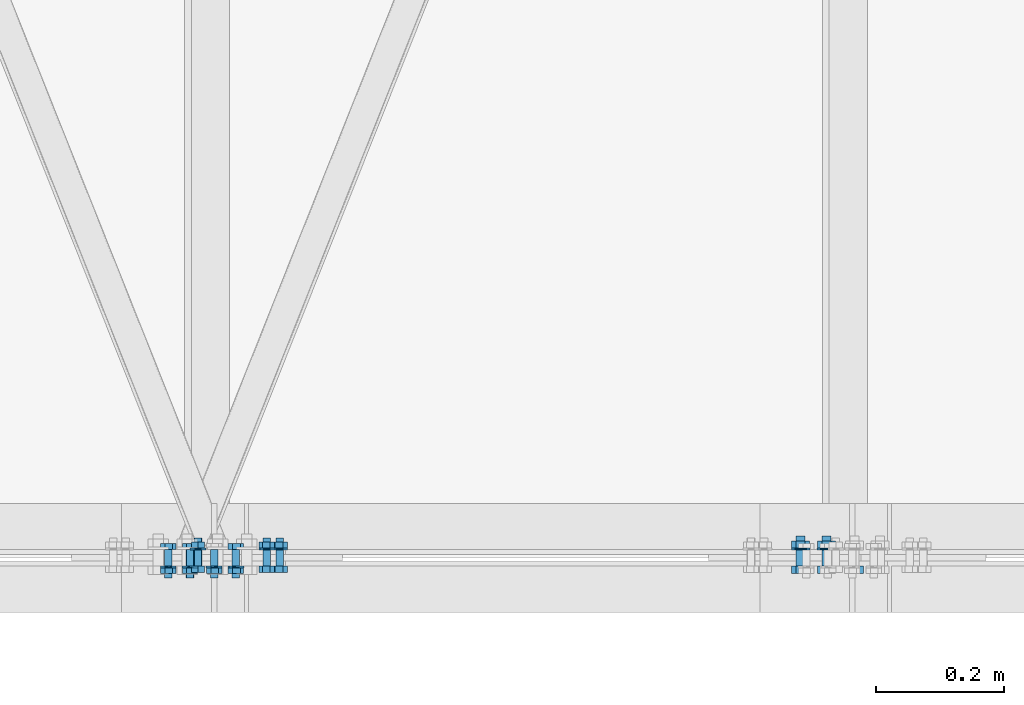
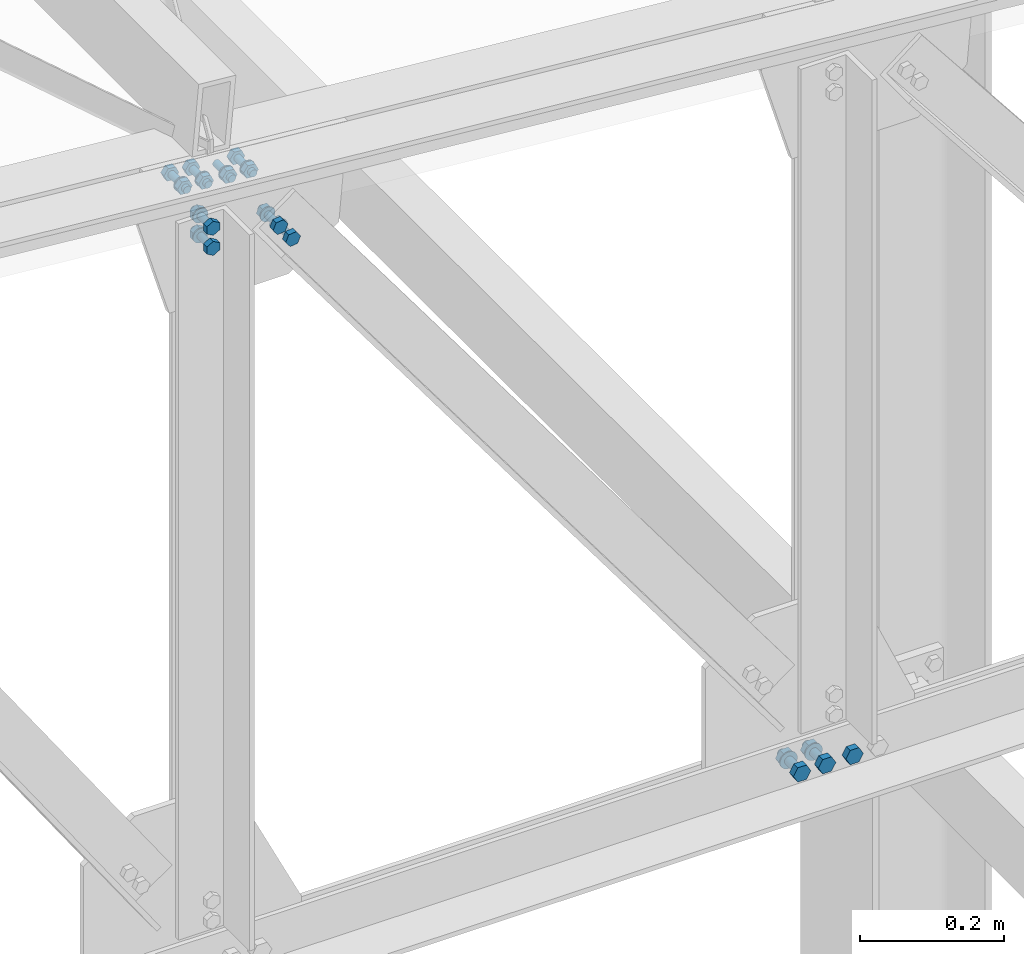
# One storey, part 90 of 251: 40 mechanical fasteners.
"""IFC4 building model written with IfcOpenShell, lengths in metres."""

from ifc_helpers import new_model, si_unit, frame, origin_with_axes, place, context, project, spatial, polyline, outline, extrude, type_object, element, save


model = new_model("IFC4")

# Units and contexts
model_context = context("Model", 3, precision=1e-05, world=origin_with_axes())
ifc_project = project(units=[si_unit("LENGTHUNIT", "METRE"), si_unit("AREAUNIT", "SQUARE_METRE"), si_unit("VOLUMEUNIT", "CUBIC_METRE"), si_unit("MASSUNIT", "GRAM", prefix="KILO"), si_unit("TIMEUNIT", "SECOND"), si_unit("PLANEANGLEUNIT", "RADIAN"), si_unit("SOLIDANGLEUNIT", "STERADIAN"), si_unit("THERMODYNAMICTEMPERATUREUNIT", "DEGREE_CELSIUS")], contexts=[model_context])

# Site, building, storey
placement_1 = place(None, origin_with_axes())
site = spatial("IfcSite", under=ifc_project, at=placement_1, Name="Italia", CompositionType="ELEMENT")
building = spatial("IfcBuilding", under=site, at=placement_1, Name="Deposito", CompositionType="ELEMENT")
storey = spatial("IfcBuildingStorey", under=building, at=placement_1, Name="Storey 0", CompositionType="ELEMENT", Elevation=0.0)

# Mechanical fasteners
mechanical_fastener_type_1 = type_object("IfcMechanicalFastenerType", Name="Reticolare 2", PredefinedType="BOLT")
placement_2 = place(placement_1, origin_with_axes())
mechanical_fastener_1_placement = place(placement_2, origin_with_axes())
element("IfcMechanicalFastener", 1, at=mechanical_fastener_1_placement, inside=storey, type_object=mechanical_fastener_type_1, Name="Reticolare 2", NominalDiameter=0.0139997, context=model_context, shape_type="SweptSolid", body=[
    extrude(outline(polyline([(0.0, 0.0), (-0.0139999, 0.0), (-0.0209999, 0.0121241), (-0.0139999, 0.0242486), (0.0, 0.0242486), (0.00699997, 0.0121241), (0.0, 0.0)])), frame((16.9964, -0.013, 4.99688), z_axis=(0.0, -1.0, 0.0), x_axis=(1.0, 0.0, 0.0)), (0.0, 0.0, 1.0), 0.0112),
])
mechanical_fastener_type_2 = type_object("IfcMechanicalFastenerType", Name="Reticolare 2", PredefinedType="BOLT")
mechanical_fastener_2_placement = place(placement_2, origin_with_axes())
element("IfcMechanicalFastener", 2, at=mechanical_fastener_2_placement, inside=storey, type_object=mechanical_fastener_type_2, Name="Reticolare 2", NominalDiameter=0.014, context=model_context, shape_type="SweptSolid", body=[
    extrude(outline(polyline([(0.0, 0.0), (-0.000238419, -0.0018115), (-0.000938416, -0.00349998), (-0.0020504, -0.00494957), (-0.00349998, -0.00606203), (-0.00518799, -0.00676155), (-0.00699997, -0.00699997), (-0.00881195, -0.00676155), (-0.0105, -0.00606203), (-0.0119495, -0.00494957), (-0.0130615, -0.00349998), (-0.0137615, -0.0018115), (-0.0139999, 0.0), (-0.0137615, 0.0018115), (-0.0130615, 0.00349998), (-0.0119495, 0.00494957), (-0.0105, 0.00606203), (-0.00881195, 0.00676155), (-0.00699997, 0.00699997), (-0.00518799, 0.00676155), (-0.00349998, 0.00606203), (-0.0020504, 0.00494957), (-0.000938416, 0.00349998), (-0.000238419, 0.0018115), (0.0, 0.0)])), frame((16.9964, 0.034, 5.009), z_axis=(0.0, -1.0, 0.0), x_axis=(1.0, 0.0, 0.0)), (0.0, 0.0, 1.0), 0.047),
])
mechanical_fastener_type_3 = type_object("IfcMechanicalFastenerType", Name="Reticolare 2", PredefinedType="BOLT")
mechanical_fastener_3_placement = place(placement_2, origin_with_axes())
element("IfcMechanicalFastener", 3, at=mechanical_fastener_3_placement, inside=storey, type_object=mechanical_fastener_type_3, Name="Reticolare 2", NominalDiameter=0.0139997, context=model_context, shape_type="SweptSolid", body=[
    extrude(outline(polyline([(0.0, 0.0), (-0.0139999, 0.0), (-0.0209999, 0.0121241), (-0.0139999, 0.0242486), (0.0, 0.0242486), (0.00699997, 0.0121241), (0.0, 0.0)])), frame((16.9964, 0.0262, 4.99688), z_axis=(0.0, -1.0, 0.0), x_axis=(1.0, 0.0, 0.0)), (0.0, 0.0, 1.0), 0.0112),
])
mechanical_fastener_type_4 = type_object("IfcMechanicalFastenerType", Name="Reticolare 2", PredefinedType="BOLT")
mechanical_fastener_4_placement = place(placement_2, origin_with_axes())
element("IfcMechanicalFastener", 4, at=mechanical_fastener_4_placement, inside=storey, type_object=mechanical_fastener_type_4, Name="Reticolare 2", NominalDiameter=0.028, context=model_context, shape_type="SweptSolid", body=[
    extrude(outline(polyline([(0.0, 0.0), (-0.000476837, -0.00362349), (-0.00187492, -0.00699997), (-0.0041008, -0.00989962), (-0.00699997, -0.0121245), (-0.010376, -0.0135231), (-0.0139999, -0.0139999), (-0.0176239, -0.0135231), (-0.0209999, -0.0121245), (-0.0238991, -0.00989962), (-0.026125, -0.00699997), (-0.027523, -0.00362349), (-0.0279999, 0.0), (-0.027523, 0.00362349), (-0.026125, 0.00699997), (-0.0238991, 0.00989962), (-0.0209999, 0.0121245), (-0.0176239, 0.0135231), (-0.0139999, 0.0139999), (-0.010376, 0.0135231), (-0.00699997, 0.0121245), (-0.0041008, 0.00989962), (-0.00187492, 0.00699997), (-0.000476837, 0.00362349), (0.0, 0.0)])), frame((17.0034, 0.015, 5.009), z_axis=(0.0, -1.0, 0.0), x_axis=(1.0, 0.0, 0.0)), (0.0, 0.0, 1.0), 0.002),
])
mechanical_fastener_type_5 = type_object("IfcMechanicalFastenerType", Name="Reticolare 2", PredefinedType="BOLT")
mechanical_fastener_5_placement = place(placement_2, origin_with_axes())
element("IfcMechanicalFastener", 5, at=mechanical_fastener_5_placement, inside=storey, type_object=mechanical_fastener_type_5, Name="Reticolare 2", NominalDiameter=0.0139997, context=model_context, shape_type="SweptSolid", body=[
    extrude(outline(polyline([(0.0, 0.0), (-0.0139999, 0.0), (-0.0209999, 0.0121241), (-0.0139999, 0.0242486), (0.0, 0.0242486), (0.00699997, 0.0121241), (0.0, 0.0)])), frame((16.9564, -0.013, 4.99688), z_axis=(0.0, -1.0, 0.0), x_axis=(1.0, 0.0, 0.0)), (0.0, 0.0, 1.0), 0.0112),
])
mechanical_fastener_type_6 = type_object("IfcMechanicalFastenerType", Name="Reticolare 2", PredefinedType="BOLT")
mechanical_fastener_6_placement = place(placement_2, origin_with_axes())
element("IfcMechanicalFastener", 6, at=mechanical_fastener_6_placement, inside=storey, type_object=mechanical_fastener_type_6, Name="Reticolare 2", NominalDiameter=0.014, context=model_context, shape_type="SweptSolid", body=[
    extrude(outline(polyline([(0.0, 0.0), (-0.000238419, -0.0018115), (-0.000938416, -0.00349998), (-0.0020504, -0.00494957), (-0.00349998, -0.00606203), (-0.00518799, -0.00676155), (-0.00699997, -0.00699997), (-0.00881195, -0.00676155), (-0.0105, -0.00606203), (-0.0119495, -0.00494957), (-0.0130615, -0.00349998), (-0.0137615, -0.0018115), (-0.0139999, 0.0), (-0.0137615, 0.0018115), (-0.0130615, 0.00349998), (-0.0119495, 0.00494957), (-0.0105, 0.00606203), (-0.00881195, 0.00676155), (-0.00699997, 0.00699997), (-0.00518799, 0.00676155), (-0.00349998, 0.00606203), (-0.0020504, 0.00494957), (-0.000938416, 0.00349998), (-0.000238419, 0.0018115), (0.0, 0.0)])), frame((16.9564, 0.034, 5.009), z_axis=(0.0, -1.0, 0.0), x_axis=(1.0, 0.0, 0.0)), (0.0, 0.0, 1.0), 0.047),
])
mechanical_fastener_type_7 = type_object("IfcMechanicalFastenerType", Name="Reticolare 2", PredefinedType="BOLT")
mechanical_fastener_7_placement = place(placement_2, origin_with_axes())
element("IfcMechanicalFastener", 7, at=mechanical_fastener_7_placement, inside=storey, type_object=mechanical_fastener_type_7, Name="Reticolare 2", NominalDiameter=0.0139997, context=model_context, shape_type="SweptSolid", body=[
    extrude(outline(polyline([(0.0, 0.0), (-0.0139999, 0.0), (-0.0209999, 0.0121241), (-0.0139999, 0.0242486), (0.0, 0.0242486), (0.00699997, 0.0121241), (0.0, 0.0)])), frame((16.9564, 0.0262, 4.99688), z_axis=(0.0, -1.0, 0.0), x_axis=(1.0, 0.0, 0.0)), (0.0, 0.0, 1.0), 0.0112),
])
mechanical_fastener_type_8 = type_object("IfcMechanicalFastenerType", Name="Reticolare 2", PredefinedType="BOLT")
mechanical_fastener_8_placement = place(placement_2, origin_with_axes())
element("IfcMechanicalFastener", 8, at=mechanical_fastener_8_placement, inside=storey, type_object=mechanical_fastener_type_8, Name="Reticolare 2", NominalDiameter=0.028, context=model_context, shape_type="SweptSolid", body=[
    extrude(outline(polyline([(0.0, 0.0), (-0.000476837, -0.00362349), (-0.00187492, -0.00699997), (-0.0041008, -0.00989962), (-0.00699997, -0.0121245), (-0.010376, -0.0135231), (-0.0139999, -0.0139999), (-0.0176239, -0.0135231), (-0.0209999, -0.0121245), (-0.0238991, -0.00989962), (-0.026125, -0.00699997), (-0.027523, -0.00362349), (-0.0279999, 0.0), (-0.027523, 0.00362349), (-0.026125, 0.00699997), (-0.0238991, 0.00989962), (-0.0209999, 0.0121245), (-0.0176239, 0.0135231), (-0.0139999, 0.0139999), (-0.010376, 0.0135231), (-0.00699997, 0.0121245), (-0.0041008, 0.00989962), (-0.00187492, 0.00699997), (-0.000476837, 0.00362349), (0.0, 0.0)])), frame((16.9634, 0.015, 5.009), z_axis=(0.0, -1.0, 0.0), x_axis=(1.0, 0.0, 0.0)), (0.0, 0.0, 1.0), 0.002),
])
mechanical_fastener_type_9 = type_object("IfcMechanicalFastenerType", Name="Reticolare 2", PredefinedType="BOLT")
mechanical_fastener_9_placement = place(placement_2, origin_with_axes())
element("IfcMechanicalFastener", 9, at=mechanical_fastener_9_placement, inside=storey, type_object=mechanical_fastener_type_9, Name="Reticolare 2", NominalDiameter=0.0139997, context=model_context, shape_type="SweptSolid", body=[
    extrude(outline(polyline([(0.0, 0.0), (-0.0139999, 0.0), (-0.0209999, 0.0121241), (-0.0139999, 0.0242486), (0.0, 0.0242486), (0.00699997, 0.0121241), (0.0, 0.0)])), frame((17.0404, -0.013, 4.99688), z_axis=(0.0, -1.0, 0.0), x_axis=(1.0, 0.0, 0.0)), (0.0, 0.0, 1.0), 0.0112),
])
mechanical_fastener_type_10 = type_object("IfcMechanicalFastenerType", Name="Reticolare 2", PredefinedType="BOLT")
mechanical_fastener_10_placement = place(placement_2, origin_with_axes())
element("IfcMechanicalFastener", 10, at=mechanical_fastener_10_placement, inside=storey, type_object=mechanical_fastener_type_10, Name="Reticolare 2", NominalDiameter=0.012, context=model_context, shape_type="SweptSolid", body=[
    extrude(outline(polyline([(0.0, 0.0), (-0.000204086, -0.00155306), (-0.000804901, -0.00299978), (-0.00175858, -0.00424242), (-0.00300026, -0.00519609), (-0.00444794, -0.00579548), (-0.00600052, -0.00600004), (-0.0075531, -0.00579548), (-0.00900078, -0.00519609), (-0.0102425, -0.00424242), (-0.0111961, -0.00299978), (-0.011797, -0.00155306), (-0.012001, 0.0), (-0.011797, 0.00155306), (-0.0111961, 0.00299978), (-0.0102425, 0.00424242), (-0.00900078, 0.00519609), (-0.0075531, 0.00579548), (-0.00600052, 0.00600004), (-0.00444794, 0.00579548), (-0.00300026, 0.00519609), (-0.00175858, 0.00424242), (-0.000804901, 0.00299978), (-0.000204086, 0.00155306), (0.0, 0.0)])), frame((16.0275, -0.031, 6.33999), z_axis=(0.0, 1.0, 0.0), x_axis=(-1.0, 0.0, 0.0)), (0.0, 0.0, 1.0), 0.044),
])
mechanical_fastener_type_11 = type_object("IfcMechanicalFastenerType", Name="Reticolare 2", PredefinedType="BOLT")
mechanical_fastener_11_placement = place(placement_2, origin_with_axes())
element("IfcMechanicalFastener", 11, at=mechanical_fastener_11_placement, inside=storey, type_object=mechanical_fastener_type_11, Name="Reticolare 2", NominalDiameter=0.011999, context=model_context, shape_type="SweptSolid", body=[
    extrude(outline(polyline([(0.0, 0.0), (0.0119534, 0.0010457), (0.018837, -0.00878429), (0.0137653, -0.01966), (0.00181007, -0.0207057), (-0.00507164, -0.0108757), (0.0, 0.0)])), frame((16.0404, -0.0246, 6.34982), z_axis=(0.0, 1.0, 0.0), x_axis=(-1.0, 0.0, 0.0)), (0.0, 0.0, 1.0), 0.0096),
])
mechanical_fastener_type_12 = type_object("IfcMechanicalFastenerType", Name="Reticolare 2", PredefinedType="BOLT")
mechanical_fastener_12_placement = place(placement_2, origin_with_axes())
element("IfcMechanicalFastener", 12, at=mechanical_fastener_12_placement, inside=storey, type_object=mechanical_fastener_type_12, Name="Reticolare 2", NominalDiameter=0.024, context=model_context, shape_type="SweptSolid", body=[
    extrude(outline(polyline([(0.0, 0.0), (-0.000408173, -0.00310564), (-0.00160599, -0.00600004), (-0.00351334, -0.00848532), (-0.00599861, -0.0103922), (-0.00889397, -0.011591), (-0.0119991, -0.0120001), (-0.0151043, -0.011591), (-0.0179996, -0.0103922), (-0.0204849, -0.00848532), (-0.0223923, -0.00600004), (-0.0235901, -0.00310564), (-0.0239983, 0.0), (-0.0235901, 0.00310564), (-0.0223923, 0.00600004), (-0.0204849, 0.00848532), (-0.0179996, 0.0103922), (-0.0151043, 0.011591), (-0.0119991, 0.0120001), (-0.00889397, 0.011591), (-0.00599861, 0.0103922), (-0.00351334, 0.00848532), (-0.00160599, 0.00600004), (-0.000408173, 0.00310564), (0.0, 0.0)])), frame((16.0215, -0.015, 6.33999), z_axis=(0.0, 1.0, 0.0), x_axis=(-1.0, 0.0, 0.0)), (0.0, 0.0, 1.0), 0.002),
])
mechanical_fastener_type_13 = type_object("IfcMechanicalFastenerType", Name="Reticolare 2", PredefinedType="BOLT")
mechanical_fastener_13_placement = place(placement_2, origin_with_axes())
element("IfcMechanicalFastener", 13, at=mechanical_fastener_13_placement, inside=storey, type_object=mechanical_fastener_type_13, Name="Reticolare 2", NominalDiameter=0.011999, context=model_context, shape_type="SweptSolid", body=[
    extrude(outline(polyline([(0.0, 0.0), (0.0119534, 0.00104618), (0.018837, -0.00878382), (0.0137653, -0.0196595), (0.00181007, -0.0207052), (-0.00507164, -0.0108757), (0.0, 0.0)])), frame((16.0743, 0.013, 6.34686), z_axis=(0.0, 1.0, 0.0), x_axis=(-1.0, 0.0, 0.0)), (0.0, 0.0, 1.0), 0.0096),
])
mechanical_fastener_type_14 = type_object("IfcMechanicalFastenerType", Name="Reticolare 2", PredefinedType="BOLT")
mechanical_fastener_14_placement = place(placement_2, origin_with_axes())
element("IfcMechanicalFastener", 14, at=mechanical_fastener_14_placement, inside=storey, type_object=mechanical_fastener_type_14, Name="Reticolare 2", NominalDiameter=0.012, context=model_context, shape_type="SweptSolid", body=[
    extrude(outline(polyline([(0.0, 0.0), (-0.000204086, -0.00155306), (-0.000804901, -0.00299978), (-0.00175858, -0.00424242), (-0.00300026, -0.00519609), (-0.00444794, -0.00579548), (-0.00600052, -0.00600004), (-0.0075531, -0.00579548), (-0.00900078, -0.00519609), (-0.0102425, -0.00424242), (-0.0111961, -0.00299978), (-0.011797, -0.00155306), (-0.012001, 0.0), (-0.011797, 0.00155306), (-0.0111961, 0.00299978), (-0.0102425, 0.00424242), (-0.00900078, 0.00519609), (-0.0075531, 0.00579548), (-0.00600052, 0.00600004), (-0.00444794, 0.00579548), (-0.00300026, 0.00519609), (-0.00175858, 0.00424242), (-0.000804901, 0.00299978), (-0.000204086, 0.00155306), (0.0, 0.0)])), frame((16.0614, -0.031, 6.33703), z_axis=(0.0, 1.0, 0.0), x_axis=(-1.0, 0.0, 0.0)), (0.0, 0.0, 1.0), 0.044),
])
mechanical_fastener_type_15 = type_object("IfcMechanicalFastenerType", Name="Reticolare 2", PredefinedType="BOLT")
mechanical_fastener_15_placement = place(placement_2, origin_with_axes())
element("IfcMechanicalFastener", 15, at=mechanical_fastener_15_placement, inside=storey, type_object=mechanical_fastener_type_15, Name="Reticolare 2", NominalDiameter=0.011999, context=model_context, shape_type="SweptSolid", body=[
    extrude(outline(polyline([(0.0, 0.0), (0.0119534, 0.00104618), (0.018837, -0.00878382), (0.0137653, -0.0196595), (0.00181007, -0.0207052), (-0.00507164, -0.0108757), (0.0, 0.0)])), frame((16.0743, -0.0246, 6.34686), z_axis=(0.0, 1.0, 0.0), x_axis=(-1.0, 0.0, 0.0)), (0.0, 0.0, 1.0), 0.0096),
])
mechanical_fastener_type_16 = type_object("IfcMechanicalFastenerType", Name="Reticolare 2", PredefinedType="BOLT")
mechanical_fastener_16_placement = place(placement_2, origin_with_axes())
element("IfcMechanicalFastener", 16, at=mechanical_fastener_16_placement, inside=storey, type_object=mechanical_fastener_type_16, Name="Reticolare 2", NominalDiameter=0.024, context=model_context, shape_type="SweptSolid", body=[
    extrude(outline(polyline([(0.0, 0.0), (-0.000408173, -0.00310564), (-0.00160599, -0.00600004), (-0.00351334, -0.00848532), (-0.00599861, -0.0103922), (-0.00889397, -0.011591), (-0.0119991, -0.0120001), (-0.0151043, -0.011591), (-0.0179996, -0.0103922), (-0.0204849, -0.00848532), (-0.0223923, -0.00600004), (-0.0235901, -0.00310564), (-0.0239983, 0.0), (-0.0235901, 0.00310564), (-0.0223923, 0.00600004), (-0.0204849, 0.00848532), (-0.0179996, 0.0103922), (-0.0151043, 0.011591), (-0.0119991, 0.0120001), (-0.00889397, 0.011591), (-0.00599861, 0.0103922), (-0.00351334, 0.00848532), (-0.00160599, 0.00600004), (-0.000408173, 0.00310564), (0.0, 0.0)])), frame((16.0554, -0.015, 6.33703), z_axis=(0.0, 1.0, 0.0), x_axis=(-1.0, 0.0, 0.0)), (0.0, 0.0, 1.0), 0.002),
])
mechanical_fastener_type_17 = type_object("IfcMechanicalFastenerType", Name="Reticolare 2", PredefinedType="BOLT")
mechanical_fastener_17_placement = place(placement_2, origin_with_axes())
element("IfcMechanicalFastener", 17, at=mechanical_fastener_17_placement, inside=storey, type_object=mechanical_fastener_type_17, Name="Reticolare 2", NominalDiameter=0.011999, context=model_context, shape_type="SweptSolid", body=[
    extrude(outline(polyline([(0.0, 0.0), (0.0119543, 0.00104618), (0.018837, -0.00878382), (0.0137653, -0.0196595), (0.00181198, -0.0207052), (-0.00507164, -0.0108757), (0.0, 0.0)])), frame((16.0026, 0.013, 6.35314), z_axis=(0.0, 1.0, 0.0), x_axis=(-1.0, 0.0, 0.0)), (0.0, 0.0, 1.0), 0.0096),
])
mechanical_fastener_type_18 = type_object("IfcMechanicalFastenerType", Name="Reticolare 2", PredefinedType="BOLT")
mechanical_fastener_18_placement = place(placement_2, origin_with_axes())
element("IfcMechanicalFastener", 18, at=mechanical_fastener_18_placement, inside=storey, type_object=mechanical_fastener_type_18, Name="Reticolare 2", NominalDiameter=0.012, context=model_context, shape_type="SweptSolid", body=[
    extrude(outline(polyline([(0.0, 0.0), (-0.000204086, -0.00155306), (-0.000802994, -0.00299978), (-0.00175667, -0.00424242), (-0.00299931, -0.00519609), (-0.00444698, -0.00579548), (-0.00599957, -0.00600004), (-0.00755215, -0.00579548), (-0.00899982, -0.00519609), (-0.0102425, -0.00424242), (-0.0111952, -0.00299978), (-0.011796, -0.00155306), (-0.0120001, 0.0), (-0.011796, 0.00155306), (-0.0111952, 0.00299978), (-0.0102425, 0.00424242), (-0.00899982, 0.00519609), (-0.00755215, 0.00579548), (-0.00599957, 0.00600004), (-0.00444698, 0.00579548), (-0.00299931, 0.00519609), (-0.00175667, 0.00424242), (-0.000802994, 0.00299978), (-0.000204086, 0.00155306), (0.0, 0.0)])), frame((15.9897, -0.031, 6.34331), z_axis=(0.0, 1.0, 0.0), x_axis=(-1.0, 0.0, 0.0)), (0.0, 0.0, 1.0), 0.044),
])
mechanical_fastener_type_19 = type_object("IfcMechanicalFastenerType", Name="Reticolare 2", PredefinedType="BOLT")
mechanical_fastener_19_placement = place(placement_2, origin_with_axes())
element("IfcMechanicalFastener", 19, at=mechanical_fastener_19_placement, inside=storey, type_object=mechanical_fastener_type_19, Name="Reticolare 2", NominalDiameter=0.011999, context=model_context, shape_type="SweptSolid", body=[
    extrude(outline(polyline([(0.0, 0.0), (0.0119543, 0.00104618), (0.018837, -0.00878382), (0.0137653, -0.0196595), (0.00181198, -0.0207052), (-0.00507164, -0.0108757), (0.0, 0.0)])), frame((16.0026, -0.0246, 6.35314), z_axis=(0.0, 1.0, 0.0), x_axis=(-1.0, 0.0, 0.0)), (0.0, 0.0, 1.0), 0.0096),
])
mechanical_fastener_type_20 = type_object("IfcMechanicalFastenerType", Name="Reticolare 2", PredefinedType="BOLT")
mechanical_fastener_20_placement = place(placement_2, origin_with_axes())
element("IfcMechanicalFastener", 20, at=mechanical_fastener_20_placement, inside=storey, type_object=mechanical_fastener_type_20, Name="Reticolare 2", NominalDiameter=0.024, context=model_context, shape_type="SweptSolid", body=[
    extrude(outline(polyline([(0.0, 0.0), (-0.000409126, -0.00310564), (-0.00160789, -0.00600004), (-0.00351524, -0.00848532), (-0.00600052, -0.0103922), (-0.00889397, -0.011591), (-0.0120001, -0.0120001), (-0.0151062, -0.011591), (-0.0180006, -0.0103922), (-0.0204859, -0.00848532), (-0.0223932, -0.00600004), (-0.023591, -0.00310564), (-0.0239992, 0.0), (-0.023591, 0.00310564), (-0.0223932, 0.00600004), (-0.0204859, 0.00848532), (-0.0180006, 0.0103922), (-0.0151062, 0.011591), (-0.0120001, 0.0120001), (-0.00889397, 0.011591), (-0.00600052, 0.0103922), (-0.00351524, 0.00848532), (-0.00160789, 0.00600004), (-0.000409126, 0.00310564), (0.0, 0.0)])), frame((15.9837, -0.015, 6.34331), z_axis=(0.0, 1.0, 0.0), x_axis=(-1.0, 0.0, 0.0)), (0.0, 0.0, 1.0), 0.002),
])
mechanical_fastener_type_21 = type_object("IfcMechanicalFastenerType", Name="Reticolare 2", PredefinedType="BOLT")
mechanical_fastener_21_placement = place(placement_2, origin_with_axes())
element("IfcMechanicalFastener", 21, at=mechanical_fastener_21_placement, inside=storey, type_object=mechanical_fastener_type_21, Name="Reticolare 2", NominalDiameter=0.012, context=model_context, shape_type="SweptSolid", body=[
    extrude(outline(polyline([(0.0, 0.0), (0.0119543, 0.0010457), (0.018837, -0.00878429), (0.0137653, -0.01966), (0.00181103, -0.0207057), (-0.00507164, -0.0108757), (0.0, 0.0)])), frame((15.9687, 0.013, 6.3561), z_axis=(0.0, 1.0, 0.0), x_axis=(-1.0, 0.0, 0.0)), (0.0, 0.0, 1.0), 0.0096),
])
mechanical_fastener_type_22 = type_object("IfcMechanicalFastenerType", Name="Reticolare 2", PredefinedType="BOLT")
mechanical_fastener_22_placement = place(placement_2, origin_with_axes())
element("IfcMechanicalFastener", 22, at=mechanical_fastener_22_placement, inside=storey, type_object=mechanical_fastener_type_22, Name="Reticolare 2", NominalDiameter=0.012, context=model_context, shape_type="SweptSolid", body=[
    extrude(outline(polyline([(0.0, 0.0), (-0.000204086, -0.00155306), (-0.000802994, -0.00299978), (-0.00175667, -0.00424242), (-0.00299931, -0.00519609), (-0.00444698, -0.00579548), (-0.00599957, -0.00600004), (-0.00755215, -0.00579548), (-0.00899982, -0.00519609), (-0.0102425, -0.00424242), (-0.0111961, -0.00299978), (-0.011795, -0.00155306), (-0.0119991, 0.0), (-0.011795, 0.00155306), (-0.0111961, 0.00299978), (-0.0102425, 0.00424242), (-0.00899982, 0.00519609), (-0.00755215, 0.00579548), (-0.00599957, 0.00600004), (-0.00444698, 0.00579548), (-0.00299931, 0.00519609), (-0.00175667, 0.00424242), (-0.000802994, 0.00299978), (-0.000204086, 0.00155306), (0.0, 0.0)])), frame((15.9558, -0.031, 6.34627), z_axis=(0.0, 1.0, 0.0), x_axis=(-1.0, 0.0, 0.0)), (0.0, 0.0, 1.0), 0.044),
])
mechanical_fastener_type_23 = type_object("IfcMechanicalFastenerType", Name="Reticolare 2", PredefinedType="BOLT")
mechanical_fastener_23_placement = place(placement_2, origin_with_axes())
element("IfcMechanicalFastener", 23, at=mechanical_fastener_23_placement, inside=storey, type_object=mechanical_fastener_type_23, Name="Reticolare 2", NominalDiameter=0.012, context=model_context, shape_type="SweptSolid", body=[
    extrude(outline(polyline([(0.0, 0.0), (0.0119543, 0.0010457), (0.018837, -0.00878429), (0.0137653, -0.01966), (0.00181103, -0.0207057), (-0.00507164, -0.0108757), (0.0, 0.0)])), frame((15.9687, -0.0246, 6.3561), z_axis=(0.0, 1.0, 0.0), x_axis=(-1.0, 0.0, 0.0)), (0.0, 0.0, 1.0), 0.0096),
])
mechanical_fastener_type_24 = type_object("IfcMechanicalFastenerType", Name="Reticolare 2", PredefinedType="BOLT")
mechanical_fastener_24_placement = place(placement_2, origin_with_axes())
element("IfcMechanicalFastener", 24, at=mechanical_fastener_24_placement, inside=storey, type_object=mechanical_fastener_type_24, Name="Reticolare 2", NominalDiameter=0.024, context=model_context, shape_type="SweptSolid", body=[
    extrude(outline(polyline([(0.0, 0.0), (-0.000409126, -0.00310564), (-0.00160789, -0.00600004), (-0.00351524, -0.00848532), (-0.00600052, -0.0103922), (-0.00889397, -0.011591), (-0.0120001, -0.0120001), (-0.0151062, -0.011591), (-0.0179996, -0.0103922), (-0.0204849, -0.00848532), (-0.0223923, -0.00600004), (-0.023591, -0.00310564), (-0.0240002, 0.0), (-0.023591, 0.00310564), (-0.0223923, 0.00600004), (-0.0204849, 0.00848532), (-0.0179996, 0.0103922), (-0.0151062, 0.011591), (-0.0120001, 0.0120001), (-0.00889397, 0.011591), (-0.00600052, 0.0103922), (-0.00351524, 0.00848532), (-0.00160789, 0.00600004), (-0.000409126, 0.00310564), (0.0, 0.0)])), frame((15.9498, -0.015, 6.34627), z_axis=(0.0, 1.0, 0.0), x_axis=(-1.0, 0.0, 0.0)), (0.0, 0.0, 1.0), 0.002),
])
mechanical_fastener_type_25 = type_object("IfcMechanicalFastenerType", Name="Reticolare 2", PredefinedType="BOLT")
mechanical_fastener_25_placement = place(placement_2, origin_with_axes())
element("IfcMechanicalFastener", 25, at=mechanical_fastener_25_placement, inside=storey, type_object=mechanical_fastener_type_25, Name="Reticolare 2", NominalDiameter=0.0119999, context=model_context, shape_type="SweptSolid", body=[
    extrude(outline(polyline([(0.0, 0.0), (0.0, -0.0120001), (-0.0103931, -0.0180001), (-0.0207853, -0.0120001), (-0.0207853, 0.0), (-0.0103931, 0.00600004), (0.0, 0.0)])), frame((16.0186, -0.013, 6.26586), z_axis=(0.0, -1.0, 0.0), x_axis=(1.0, 0.0, 0.0)), (0.0, 0.0, 1.0), 0.0096),
])
mechanical_fastener_type_26 = type_object("IfcMechanicalFastenerType", Name="Reticolare 2", PredefinedType="BOLT")
mechanical_fastener_26_placement = place(placement_2, origin_with_axes())
element("IfcMechanicalFastener", 26, at=mechanical_fastener_26_placement, inside=storey, type_object=mechanical_fastener_type_26, Name="Reticolare 2", NominalDiameter=0.012, context=model_context, shape_type="SweptSolid", body=[
    extrude(outline(polyline([(0.0, 0.0), (-0.000204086, -0.00155306), (-0.000804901, -0.00299978), (-0.00175858, -0.00424242), (-0.00300026, -0.00519609), (-0.00444794, -0.00579548), (-0.00600052, -0.00600004), (-0.0075531, -0.00579548), (-0.00900078, -0.00519609), (-0.0102425, -0.00424242), (-0.0111961, -0.00299978), (-0.011797, -0.00155306), (-0.012001, 0.0), (-0.011797, 0.00155306), (-0.0111961, 0.00299978), (-0.0102425, 0.00424242), (-0.00900078, 0.00519609), (-0.0075531, 0.00579548), (-0.00600052, 0.00600004), (-0.00444794, 0.00579548), (-0.00300026, 0.00519609), (-0.00175858, 0.00424242), (-0.000804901, 0.00299978), (-0.000204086, 0.00155306), (0.0, 0.0)])), frame((16.0142, 0.031, 6.25986), z_axis=(0.0, -1.0, 0.0), x_axis=(1.0, 0.0, 0.0)), (0.0, 0.0, 1.0), 0.044),
])
mechanical_fastener_type_27 = type_object("IfcMechanicalFastenerType", Name="Reticolare 2", PredefinedType="BOLT")
mechanical_fastener_27_placement = place(placement_2, origin_with_axes())
element("IfcMechanicalFastener", 27, at=mechanical_fastener_27_placement, inside=storey, type_object=mechanical_fastener_type_27, Name="Reticolare 2", NominalDiameter=0.0119999, context=model_context, shape_type="SweptSolid", body=[
    extrude(outline(polyline([(0.0, 0.0), (0.0, -0.0120001), (-0.0103931, -0.0180001), (-0.0207853, -0.0120001), (-0.0207853, 0.0), (-0.0103931, 0.00600004), (0.0, 0.0)])), frame((16.0186, 0.0246, 6.26586), z_axis=(0.0, -1.0, 0.0), x_axis=(1.0, 0.0, 0.0)), (0.0, 0.0, 1.0), 0.0096),
])
mechanical_fastener_type_28 = type_object("IfcMechanicalFastenerType", Name="Reticolare 2", PredefinedType="BOLT")
mechanical_fastener_28_placement = place(placement_2, origin_with_axes())
element("IfcMechanicalFastener", 28, at=mechanical_fastener_28_placement, inside=storey, type_object=mechanical_fastener_type_28, Name="Reticolare 2", NominalDiameter=0.024, context=model_context, shape_type="SweptSolid", body=[
    extrude(outline(polyline([(0.0, 0.0), (-0.000408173, -0.00310564), (-0.00160599, -0.00600004), (-0.00351334, -0.00848532), (-0.00599861, -0.0103922), (-0.00889397, -0.011591), (-0.0119991, -0.0120001), (-0.0151043, -0.011591), (-0.0179996, -0.0103922), (-0.020484, -0.00848532), (-0.0223913, -0.00600004), (-0.0235901, -0.00310564), (-0.0239992, 0.0), (-0.0235901, 0.00310564), (-0.0223913, 0.00600004), (-0.020484, 0.00848532), (-0.0179996, 0.0103922), (-0.0151043, 0.011591), (-0.0119991, 0.0120001), (-0.00889397, 0.011591), (-0.00599861, 0.0103922), (-0.00351334, 0.00848532), (-0.00160599, 0.00600004), (-0.000408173, 0.00310564), (0.0, 0.0)])), frame((16.0202, 0.015, 6.25986), z_axis=(0.0, -1.0, 0.0), x_axis=(1.0, 0.0, 0.0)), (0.0, 0.0, 1.0), 0.002),
])
mechanical_fastener_type_29 = type_object("IfcMechanicalFastenerType", Name="Reticolare 2", PredefinedType="BOLT")
mechanical_fastener_29_placement = place(placement_2, origin_with_axes())
element("IfcMechanicalFastener", 29, at=mechanical_fastener_29_placement, inside=storey, type_object=mechanical_fastener_type_29, Name="Reticolare 2", NominalDiameter=0.0119999, context=model_context, shape_type="SweptSolid", body=[
    extrude(outline(polyline([(0.0, 0.0), (0.0, -0.0120001), (-0.0103931, -0.0180001), (-0.0207853, -0.0120001), (-0.0207853, 0.0), (-0.0103931, 0.00600004), (0.0, 0.0)])), frame((16.0186, -0.013, 6.23186), z_axis=(0.0, -1.0, 0.0), x_axis=(1.0, 0.0, 0.0)), (0.0, 0.0, 1.0), 0.0096),
])
mechanical_fastener_type_30 = type_object("IfcMechanicalFastenerType", Name="Reticolare 2", PredefinedType="BOLT")
mechanical_fastener_30_placement = place(placement_2, origin_with_axes())
element("IfcMechanicalFastener", 30, at=mechanical_fastener_30_placement, inside=storey, type_object=mechanical_fastener_type_30, Name="Reticolare 2", NominalDiameter=0.012, context=model_context, shape_type="SweptSolid", body=[
    extrude(outline(polyline([(0.0, 0.0), (-0.000204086, -0.00155306), (-0.000804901, -0.00299978), (-0.00175858, -0.00424242), (-0.00300026, -0.00519609), (-0.00444794, -0.00579548), (-0.00600052, -0.00600004), (-0.0075531, -0.00579548), (-0.00900078, -0.00519609), (-0.0102425, -0.00424242), (-0.0111961, -0.00299978), (-0.011797, -0.00155306), (-0.012001, 0.0), (-0.011797, 0.00155306), (-0.0111961, 0.00299978), (-0.0102425, 0.00424242), (-0.00900078, 0.00519609), (-0.0075531, 0.00579548), (-0.00600052, 0.00600004), (-0.00444794, 0.00579548), (-0.00300026, 0.00519609), (-0.00175858, 0.00424242), (-0.000804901, 0.00299978), (-0.000204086, 0.00155306), (0.0, 0.0)])), frame((16.0142, 0.031, 6.22586), z_axis=(0.0, -1.0, 0.0), x_axis=(1.0, 0.0, 0.0)), (0.0, 0.0, 1.0), 0.044),
])
mechanical_fastener_type_31 = type_object("IfcMechanicalFastenerType", Name="Reticolare 2", PredefinedType="BOLT")
mechanical_fastener_31_placement = place(placement_2, origin_with_axes())
element("IfcMechanicalFastener", 31, at=mechanical_fastener_31_placement, inside=storey, type_object=mechanical_fastener_type_31, Name="Reticolare 2", NominalDiameter=0.0119999, context=model_context, shape_type="SweptSolid", body=[
    extrude(outline(polyline([(0.0, 0.0), (0.0, -0.0120001), (-0.0103931, -0.0180001), (-0.0207853, -0.0120001), (-0.0207853, 0.0), (-0.0103931, 0.00600004), (0.0, 0.0)])), frame((16.0186, 0.0246, 6.23186), z_axis=(0.0, -1.0, 0.0), x_axis=(1.0, 0.0, 0.0)), (0.0, 0.0, 1.0), 0.0096),
])
mechanical_fastener_type_32 = type_object("IfcMechanicalFastenerType", Name="Reticolare 2", PredefinedType="BOLT")
mechanical_fastener_32_placement = place(placement_2, origin_with_axes())
element("IfcMechanicalFastener", 32, at=mechanical_fastener_32_placement, inside=storey, type_object=mechanical_fastener_type_32, Name="Reticolare 2", NominalDiameter=0.024, context=model_context, shape_type="SweptSolid", body=[
    extrude(outline(polyline([(0.0, 0.0), (-0.000408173, -0.00310564), (-0.00160599, -0.00600004), (-0.00351334, -0.00848532), (-0.00599861, -0.0103922), (-0.00889397, -0.011591), (-0.0119991, -0.0120001), (-0.0151043, -0.011591), (-0.0179996, -0.0103922), (-0.020484, -0.00848532), (-0.0223913, -0.00600004), (-0.0235901, -0.00310564), (-0.0239992, 0.0), (-0.0235901, 0.00310564), (-0.0223913, 0.00600004), (-0.020484, 0.00848532), (-0.0179996, 0.0103922), (-0.0151043, 0.011591), (-0.0119991, 0.0120001), (-0.00889397, 0.011591), (-0.00599861, 0.0103922), (-0.00351334, 0.00848532), (-0.00160599, 0.00600004), (-0.000408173, 0.00310564), (0.0, 0.0)])), frame((16.0202, 0.015, 6.22586), z_axis=(0.0, -1.0, 0.0), x_axis=(1.0, 0.0, 0.0)), (0.0, 0.0, 1.0), 0.002),
])
mechanical_fastener_type_33 = type_object("IfcMechanicalFastenerType", Name="Reticolare 2", PredefinedType="BOLT")
mechanical_fastener_33_placement = place(placement_2, origin_with_axes())
element("IfcMechanicalFastener", 33, at=mechanical_fastener_33_placement, inside=storey, type_object=mechanical_fastener_type_33, Name="Reticolare 2", NominalDiameter=0.0119989, context=model_context, shape_type="SweptSolid", body=[
    extrude(outline(polyline([(0.0, 0.0), (-0.00712967, 0.00965214), (-0.00233459, 0.0206528), (0.00958824, 0.0220013), (0.0167179, 0.0123491), (0.0119247, 0.0013485), (0.0, 0.0)])), frame((16.111, -0.013, 6.21319), z_axis=(0.0, -1.0, 0.0), x_axis=(1.0, 0.0, 0.0)), (0.0, 0.0, 1.0), 0.0096),
])
mechanical_fastener_type_34 = type_object("IfcMechanicalFastenerType", Name="Reticolare 2", PredefinedType="BOLT")
mechanical_fastener_34_placement = place(placement_2, origin_with_axes())
element("IfcMechanicalFastener", 34, at=mechanical_fastener_34_placement, inside=storey, type_object=mechanical_fastener_type_34, Name="Reticolare 2", NominalDiameter=0.012, context=model_context, shape_type="SweptSolid", body=[
    extrude(outline(polyline([(0.0, 0.0), (-0.000204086, -0.00155306), (-0.000804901, -0.00299978), (-0.00175858, -0.00424242), (-0.00300026, -0.00519609), (-0.00444794, -0.00579548), (-0.00600052, -0.00600004), (-0.0075531, -0.00579548), (-0.00900078, -0.00519609), (-0.0102425, -0.00424242), (-0.0111961, -0.00299978), (-0.011797, -0.00155306), (-0.012001, 0.0), (-0.011797, 0.00155306), (-0.0111961, 0.00299978), (-0.0102425, 0.00424242), (-0.00900078, 0.00519609), (-0.0075531, 0.00579548), (-0.00600052, 0.00600004), (-0.00444794, 0.00579548), (-0.00300026, 0.00519609), (-0.00175858, 0.00424242), (-0.000804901, 0.00299978), (-0.000204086, 0.00155306), (0.0, 0.0)])), frame((16.1218, 0.031, 6.22419), z_axis=(0.0, -1.0, 0.0), x_axis=(1.0, 0.0, 0.0)), (0.0, 0.0, 1.0), 0.044),
])
mechanical_fastener_type_35 = type_object("IfcMechanicalFastenerType", Name="Reticolare 2", PredefinedType="BOLT")
mechanical_fastener_35_placement = place(placement_2, origin_with_axes())
element("IfcMechanicalFastener", 35, at=mechanical_fastener_35_placement, inside=storey, type_object=mechanical_fastener_type_35, Name="Reticolare 2", NominalDiameter=0.0119989, context=model_context, shape_type="SweptSolid", body=[
    extrude(outline(polyline([(0.0, 0.0), (-0.00712967, 0.00965214), (-0.00233459, 0.0206528), (0.00958824, 0.0220013), (0.0167179, 0.0123491), (0.0119247, 0.0013485), (0.0, 0.0)])), frame((16.111, 0.0246, 6.21319), z_axis=(0.0, -1.0, 0.0), x_axis=(1.0, 0.0, 0.0)), (0.0, 0.0, 1.0), 0.0096),
])
mechanical_fastener_type_36 = type_object("IfcMechanicalFastenerType", Name="Reticolare 2", PredefinedType="BOLT")
mechanical_fastener_36_placement = place(placement_2, origin_with_axes())
element("IfcMechanicalFastener", 36, at=mechanical_fastener_36_placement, inside=storey, type_object=mechanical_fastener_type_36, Name="Reticolare 2", NominalDiameter=0.024, context=model_context, shape_type="SweptSolid", body=[
    extrude(outline(polyline([(0.0, 0.0), (-0.000408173, -0.00310564), (-0.00160599, -0.00600004), (-0.00351334, -0.00848532), (-0.00599861, -0.0103922), (-0.00889397, -0.011591), (-0.0119991, -0.0120001), (-0.0151043, -0.011591), (-0.0179996, -0.0103922), (-0.0204849, -0.00848532), (-0.0223923, -0.00600004), (-0.0235901, -0.00310564), (-0.0239983, 0.0), (-0.0235901, 0.00310564), (-0.0223923, 0.00600004), (-0.0204849, 0.00848532), (-0.0179996, 0.0103922), (-0.0151043, 0.011591), (-0.0119991, 0.0120001), (-0.00889397, 0.011591), (-0.00599861, 0.0103922), (-0.00351334, 0.00848532), (-0.00160599, 0.00600004), (-0.000408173, 0.00310564), (0.0, 0.0)])), frame((16.1278, 0.015, 6.22419), z_axis=(0.0, -1.0, 0.0), x_axis=(1.0, 0.0, 0.0)), (0.0, 0.0, 1.0), 0.002),
])
mechanical_fastener_type_37 = type_object("IfcMechanicalFastenerType", Name="Reticolare 2", PredefinedType="BOLT")
mechanical_fastener_37_placement = place(placement_2, origin_with_axes())
element("IfcMechanicalFastener", 37, at=mechanical_fastener_37_placement, inside=storey, type_object=mechanical_fastener_type_37, Name="Reticolare 2", NominalDiameter=0.0119989, context=model_context, shape_type="SweptSolid", body=[
    extrude(outline(polyline([(0.0, 0.0), (-0.00712967, 0.00965214), (-0.00233459, 0.0206532), (0.00958824, 0.0220017), (0.0167198, 0.0123491), (0.0119247, 0.0013485), (0.0, 0.0)])), frame((16.1312, -0.013, 6.18584), z_axis=(0.0, -1.0, 0.0), x_axis=(1.0, 0.0, 0.0)), (0.0, 0.0, 1.0), 0.0096),
])
mechanical_fastener_type_38 = type_object("IfcMechanicalFastenerType", Name="Reticolare 2", PredefinedType="BOLT")
mechanical_fastener_38_placement = place(placement_2, origin_with_axes())
element("IfcMechanicalFastener", 38, at=mechanical_fastener_38_placement, inside=storey, type_object=mechanical_fastener_type_38, Name="Reticolare 2", NominalDiameter=0.012, context=model_context, shape_type="SweptSolid", body=[
    extrude(outline(polyline([(0.0, 0.0), (-0.000204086, -0.00155306), (-0.000804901, -0.00299978), (-0.00175858, -0.00424242), (-0.00300026, -0.00519609), (-0.00444794, -0.00579548), (-0.00600052, -0.00600004), (-0.0075531, -0.00579548), (-0.00900078, -0.00519609), (-0.0102425, -0.00424242), (-0.0111961, -0.00299978), (-0.011797, -0.00155306), (-0.012001, 0.0), (-0.011797, 0.00155306), (-0.0111961, 0.00299978), (-0.0102425, 0.00424242), (-0.00900078, 0.00519609), (-0.0075531, 0.00579548), (-0.00600052, 0.00600004), (-0.00444794, 0.00579548), (-0.00300026, 0.00519609), (-0.00175858, 0.00424242), (-0.000804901, 0.00299978), (-0.000204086, 0.00155306), (0.0, 0.0)])), frame((16.142, 0.031, 6.19684), z_axis=(0.0, -1.0, 0.0), x_axis=(1.0, 0.0, 0.0)), (0.0, 0.0, 1.0), 0.044),
])
mechanical_fastener_type_39 = type_object("IfcMechanicalFastenerType", Name="Reticolare 2", PredefinedType="BOLT")
mechanical_fastener_39_placement = place(placement_2, origin_with_axes())
element("IfcMechanicalFastener", 39, at=mechanical_fastener_39_placement, inside=storey, type_object=mechanical_fastener_type_39, Name="Reticolare 2", NominalDiameter=0.0119989, context=model_context, shape_type="SweptSolid", body=[
    extrude(outline(polyline([(0.0, 0.0), (-0.00712967, 0.00965214), (-0.00233459, 0.0206532), (0.00958824, 0.0220017), (0.0167198, 0.0123491), (0.0119247, 0.0013485), (0.0, 0.0)])), frame((16.1312, 0.0246, 6.18584), z_axis=(0.0, -1.0, 0.0), x_axis=(1.0, 0.0, 0.0)), (0.0, 0.0, 1.0), 0.0096),
])
mechanical_fastener_type_40 = type_object("IfcMechanicalFastenerType", Name="Reticolare 2", PredefinedType="BOLT")
mechanical_fastener_40_placement = place(placement_2, origin_with_axes())
element("IfcMechanicalFastener", 40, at=mechanical_fastener_40_placement, inside=storey, type_object=mechanical_fastener_type_40, Name="Reticolare 2", NominalDiameter=0.024, context=model_context, shape_type="SweptSolid", body=[
    extrude(outline(polyline([(0.0, 0.0), (-0.000408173, -0.00310564), (-0.00160599, -0.00600004), (-0.00351334, -0.00848532), (-0.00599861, -0.0103922), (-0.00889397, -0.011591), (-0.0119991, -0.0120001), (-0.0151043, -0.011591), (-0.0179996, -0.0103922), (-0.0204849, -0.00848532), (-0.0223923, -0.00600004), (-0.0235901, -0.00310564), (-0.0239983, 0.0), (-0.0235901, 0.00310564), (-0.0223923, 0.00600004), (-0.0204849, 0.00848532), (-0.0179996, 0.0103922), (-0.0151043, 0.011591), (-0.0119991, 0.0120001), (-0.00889397, 0.011591), (-0.00599861, 0.0103922), (-0.00351334, 0.00848532), (-0.00160599, 0.00600004), (-0.000408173, 0.00310564), (0.0, 0.0)])), frame((16.148, 0.015, 6.19684), z_axis=(0.0, -1.0, 0.0), x_axis=(1.0, 0.0, 0.0)), (0.0, 0.0, 1.0), 0.002),
])

save(model, "model.ifc")
